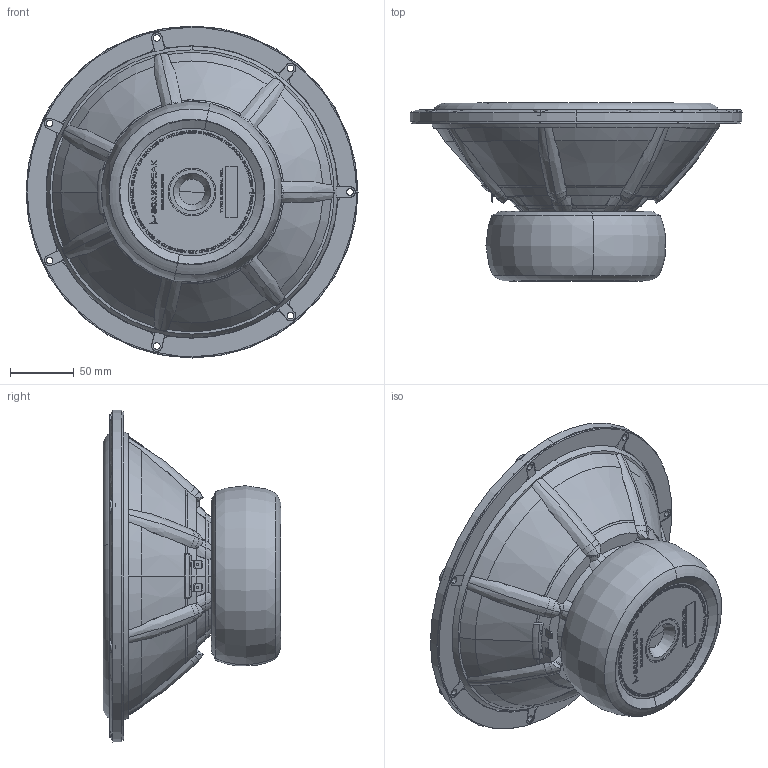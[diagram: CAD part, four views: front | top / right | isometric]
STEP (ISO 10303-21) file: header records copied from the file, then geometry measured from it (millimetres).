
FILE_DESCRIPTION (( 'STEP AP214' ), '1' );
FILE_NAME ('26W-8867T00.STEP', '2020-11-25T09:48:39', ( '' ), ( '' ), 'SwSTEP 2.0', 'SolidWorks 2019', '' );
FILE_SCHEMA (( 'AUTOMOTIVE_DESIGN' ));
Length unit declared in the file: millimetre
Products named in the file (1): 26W-8867T00
Bounding box: 260 x 139.24 x 260 mm (x, y, z)
Volume: 2300434.3 mm3; surface area: 280608.6 mm2
Topology: 2 solids, 13 shells, 3063 faces, 8320 edges, 5501 vertices
Faces by surface type: plane 1853, bspline 829, cylinder 167, torus 113, cone 97, sphere 4
Entity records: 167890 total; most frequent: CARTESIAN_POINT 64332, ORIENTED_EDGE 16632, DIRECTION 11025, EDGE_CURVE 8316, VECTOR 5595, LINE 5595, VERTEX_POINT 5501, EDGE_LOOP 3319
